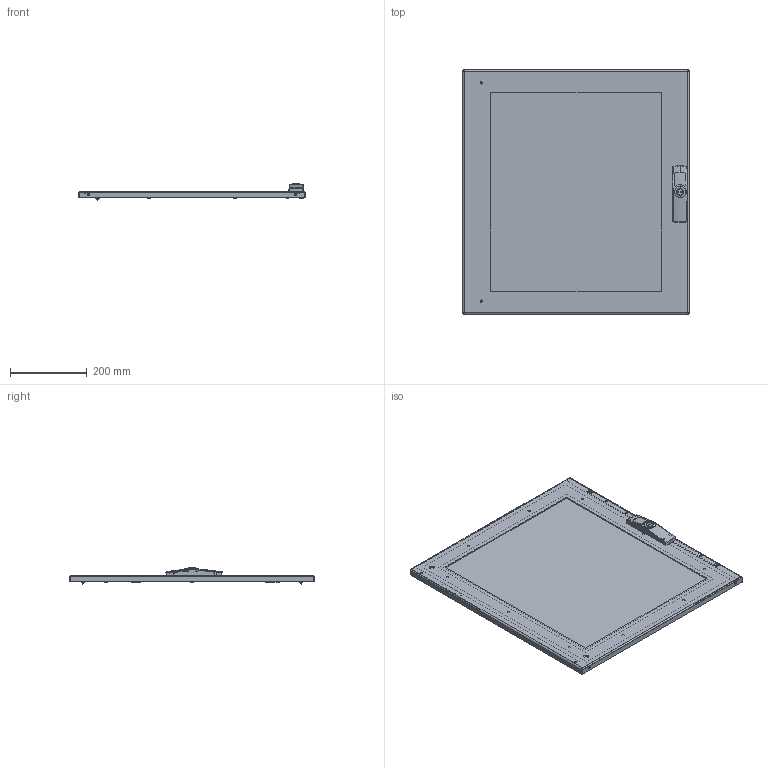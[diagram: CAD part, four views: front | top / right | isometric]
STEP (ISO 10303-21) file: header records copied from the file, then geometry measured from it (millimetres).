
FILE_DESCRIPTION (( 'STEP AP203' ), '1' );
FILE_NAME ('pdwg76.STEP', '2014-01-31T20:16:13', ( 'User' ), ( 'Pentair Inc' ), 'SwSTEP 2.0', 'SolidWorks 2010', '' );
FILE_SCHEMA (( 'CONFIG_CONTROL_DESIGN' ));
Length unit declared in the file: inch
Products named in the file (35): pdwg76; 89107066_87950558; 89107031_87545434; 60127101_After Weld; 60100041_60100041; 87931527_87931527; 87931368_SLEEVE; 60127172_60127172; 89107112_87950578; 99401225; 89107130; 11359806_11359806; 11359804_11359804; 60127175_60127175; 60127216_60127216; 60127140_60127140; 60127138_60127138; 87576035_87576035; 60127139_60127139; 11158132_THIKNESS .155 FIXED; 11158133_11581133; 87792981; 87792979; 60127424_60127424; 87798945_60127373; 60127182_60127182; 60127208; 60127207; 60127212; 60127277_60127277; 51232001_51232001; 60127173_60127173; 89107076_87412773; 89107073_87412776; 60127285_60127285
Assembly tree (59 placements, depth 4):
  pdwg76
    60127277_60127277  x3
      51232001_51232001
      60127173_60127173
    89107073_87412776  x2
    89107076_87412773  x2
    60127285_60127285
    87792979  x2
    87792981  x2
    11359806_11359806
      11158132_THIKNESS .155 FIXED  x4
      60127139_60127139  x2
      11158133_11581133  x2
      60127175_60127175
      60127216_60127216  x2
        60127138_60127138
        87576035_87576035
        60127140_60127140
      11359804_11359804
    89107066_87950558
      99401225  x10
      60127172_60127172  x3
      89107130
      60100041_60100041  x2
        87931368_SLEEVE
        87931527_87931527
      89107112_87950578
      60127101_After Weld  x2
      89107031_87545434
    60127424_60127424
      60127182_60127182
      60127208
      60127212
      87798945_60127373
      60127207
Bounding box: 591.8 x 639.02 x 41.86 mm (x, y, z)
Volume: 2130341.9 mm3; surface area: 1217257.4 mm2
Topology: 58 solids, 58 shells, 2117 faces, 5201 edges, 3234 vertices
Faces by surface type: plane 906, cylinder 703, cone 193, torus 177, bspline 123, sphere 15
Entity records: 47571 total; most frequent: CARTESIAN_POINT 11999, ORIENTED_EDGE 6626, DIRECTION 6351, EDGE_CURVE 3313, AXIS2_PLACEMENT_3D 2298, VERTEX_POINT 2085, VECTOR 1755, LINE 1755
